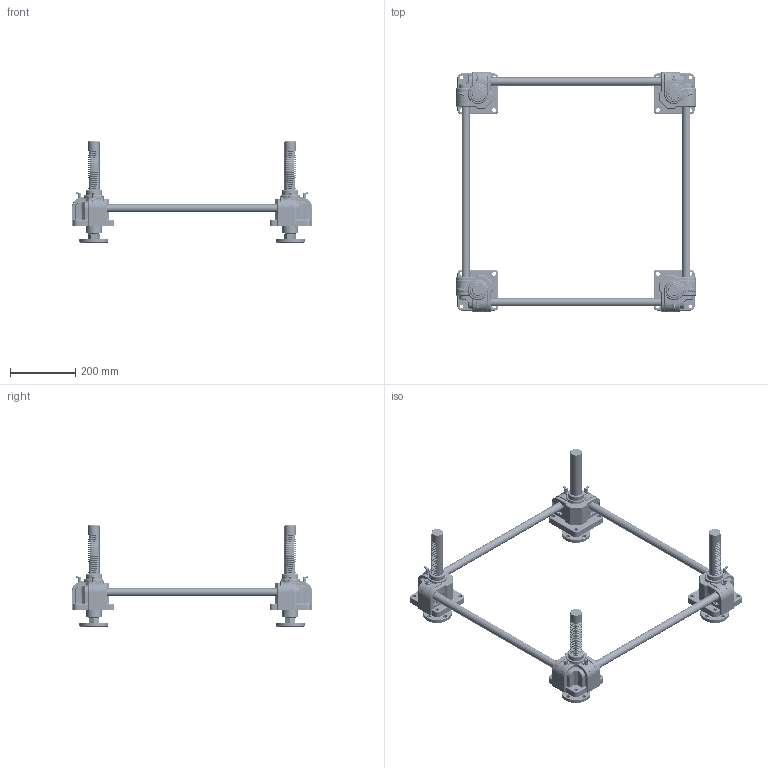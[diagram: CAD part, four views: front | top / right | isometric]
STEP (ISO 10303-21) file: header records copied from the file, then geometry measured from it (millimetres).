
FILE_DESCRIPTION(('STEP AP203'),'1');
FILE_NAME('SP1500FU-600x600-150ST.stp','2022-06-15T01:52:47',(' '),(' '),'Spatial InterOp 3D',' ',' ');
FILE_SCHEMA(('CONFIG_CONTROL_DESIGN'));
Length unit declared in the file: millimetre
Products named in the file (75): SP1500FU-600x600-150ST; ASSEM1; Flange.1-Part; Flange.1; Joint.1; Nut.1; Flange.2-Part; Flange.2; Joint.2; Nut.2; Flange.3-Part; Flange.3; Joint.3; Nut.3; Flange.4-Part; Flange.4; Nut.4; Joint.4; Body.1-Part; SnapRing-55Pie; b6205zz; Nipple; Gear Box.1(NSP-1500); RJ05-4SCJ-610X600-100ST_CAP; LABEL-B.1; ___; 파트18; __ SP500; Body.2-Part; Gear Box.2(NSP-1500); Body.3-Part; Gear Box.3(NSP-1500); Body.4-Part; Gear Box.4(NSP-1500); Shaft.1; Shaft.2
Assembly tree (76 placements, depth 6):
  SP1500FU-600x600-150ST
    ASSEM1
    (unnamed)
    (unnamed)
    (unnamed)
    Flange.1-Part
      Flange.1
      Joint.1
      Nut.1
    Flange.2-Part
      Flange.2
      Joint.2
      Nut.2
    Flange.3-Part
      Flange.3
      Joint.3
      Nut.3
    Flange.4-Part
      Flange.4
      Nut.4
      Joint.4
    Body.1-Part
      SnapRing-55Pie
      SnapRing-55Pie
      b6205zz
      b6205zz
      Nipple
      Nipple
      Gear Box.1(NSP-1500)
      __ SP500
        ___
          RJ05-4SCJ-610X600-100ST_CAP
            LABEL-B.1
          파트18
    Body.2-Part
      Nipple
      Nipple
      SnapRing-55Pie
      SnapRing-55Pie
      b6205zz
      b6205zz
      Gear Box.2(NSP-1500)
      __ SP500
        ___
          RJ05-4SCJ-610X600-100ST_CAP
            LABEL-B.1
          파트18
    Body.3-Part
      Nipple
      Nipple
      SnapRing-55Pie
      SnapRing-55Pie
      b6205zz
      b6205zz
      Gear Box.3(NSP-1500)
      __ SP500
        ___
          RJ05-4SCJ-610X600-100ST_CAP
            LABEL-B.1
          파트18
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Bounding box: 735.44 x 735.44 x 310 mm (x, y, z)
Volume: 4436672.1 mm3; surface area: 1074517.9 mm2
Topology: 80 solids, 80 shells, 10680 faces, 29566 edges, 19142 vertices
Faces by surface type: plane 7872, cylinder 1692, torus 432, bspline 224, revolution 168, extrusion 152, sphere 88, cone 52
Full cylindrical faces by diameter (mm): 3.087 x16, 4.8 x8, 8 x8, 9.886 x8, 10 x8, 12 x32, 25 x28, 27 x4, 28 x8, 32.5 x16, 35 x4, 36 x4, 37 x4, 38 x4, 39 x12, 39.4 x4, 41 x8, 44 x4, 45 x4, 46.1 x16, 48 x4, 50 x12, 52 x24, 55 x8, 59 x4, 88 x4
Entity records: 363852 total; most frequent: CARTESIAN_POINT 96793, ORIENTED_EDGE 56736, DIRECTION 49670, EDGE_CURVE 28368, VECTOR 22760, LINE 22608, VERTEX_POINT 18688, AXIS2_PLACEMENT_3D 13371
